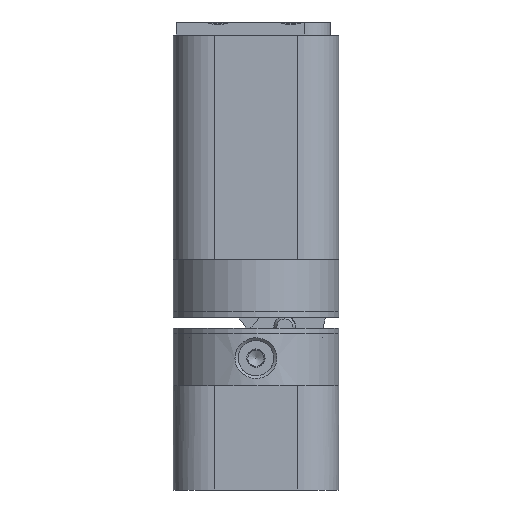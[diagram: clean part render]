
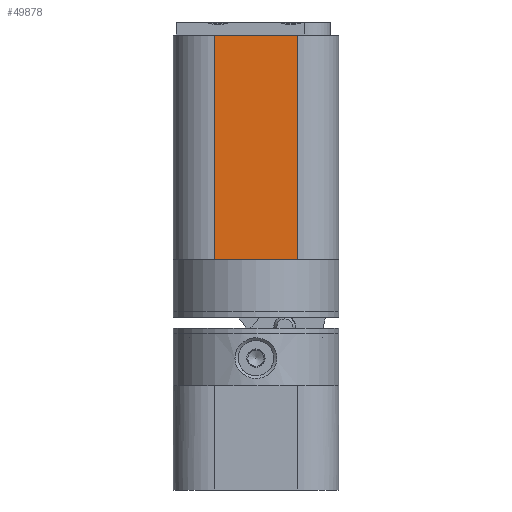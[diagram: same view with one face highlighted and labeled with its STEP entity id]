
A CAD part, left-side view. The second image highlights one B-rep face of the part: STEP entity #49878.
In plain terms, the highlighted planar face has unit normal (-1, 0, 0) as drawn and (1, 0, 0) by its records, which use the part's own axes.
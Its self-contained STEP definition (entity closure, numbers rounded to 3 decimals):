
#46033=CARTESIAN_POINT('',(56.5,7.75,-53.0));
#46034=VERTEX_POINT('',#46033);
#46042=CARTESIAN_POINT('',(56.5,-8.05,-53.0));
#46043=VERTEX_POINT('',#46042);
#46044=CARTESIAN_POINT('',(56.5,-8.05,-53.0));
#46045=DIRECTION('',(0.0,1.0,0.0));
#46046=VECTOR('',#46045,15.8);
#46047=LINE('',#46044,#46046);
#46048=EDGE_CURVE('',#46043,#46034,#46047,.T.);
#49836=CARTESIAN_POINT('',(56.5,-8.05,-10.0));
#49837=VERTEX_POINT('',#49836);
#49838=CARTESIAN_POINT('',(56.5,-8.05,-10.0));
#49839=DIRECTION('',(0.0,0.0,-1.0));
#49840=VECTOR('',#49839,43.0);
#49841=LINE('',#49838,#49840);
#49842=EDGE_CURVE('',#49837,#46043,#49841,.T.);
#49855=CARTESIAN_POINT('',(56.5,-8.05,-10.0));
#49856=DIRECTION('',(1.0,0.0,0.0));
#49857=DIRECTION('',(0.0,0.0,-1.0));
#49858=AXIS2_PLACEMENT_3D('',#49855,#49856,#49857);
#49859=PLANE('',#49858);
#49860=ORIENTED_EDGE('',*,*,#46048,.T.);
#49861=CARTESIAN_POINT('',(56.5,7.75,-10.0));
#49862=VERTEX_POINT('',#49861);
#49863=CARTESIAN_POINT('',(56.5,7.75,-10.0));
#49864=DIRECTION('',(0.0,0.0,-1.0));
#49865=VECTOR('',#49864,43.0);
#49866=LINE('',#49863,#49865);
#49867=EDGE_CURVE('',#49862,#46034,#49866,.T.);
#49868=ORIENTED_EDGE('',*,*,#49867,.F.);
#49869=CARTESIAN_POINT('',(56.5,-8.05,-10.0));
#49870=DIRECTION('',(0.0,1.0,0.0));
#49871=VECTOR('',#49870,15.8);
#49872=LINE('',#49869,#49871);
#49873=EDGE_CURVE('',#49837,#49862,#49872,.T.);
#49874=ORIENTED_EDGE('',*,*,#49873,.F.);
#49875=ORIENTED_EDGE('',*,*,#49842,.T.);
#49876=EDGE_LOOP('',(#49860,#49868,#49874,#49875));
#49877=FACE_OUTER_BOUND('',#49876,.T.);
#49878=ADVANCED_FACE('',(#49877),#49859,.T.);
